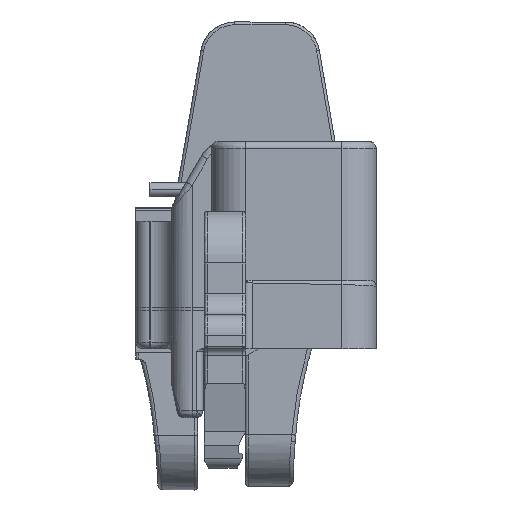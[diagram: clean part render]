
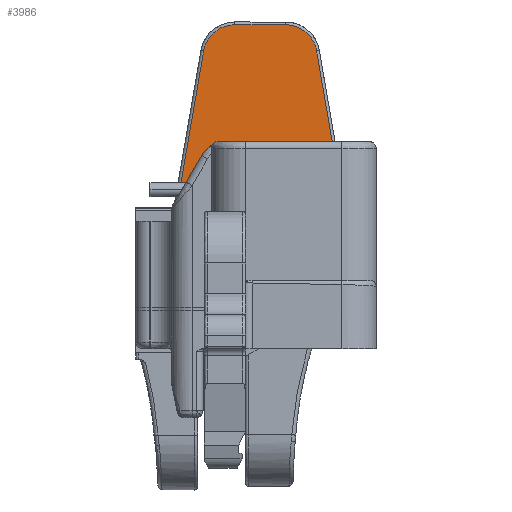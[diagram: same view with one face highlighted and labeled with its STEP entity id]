
A CAD part, front view. The second image highlights one B-rep face of the part: STEP entity #3986.
In plain terms, the highlighted planar face has unit normal (0, -1, 0).
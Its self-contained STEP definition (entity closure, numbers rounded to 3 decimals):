
#904 = CARTESIAN_POINT ( 'NONE',  ( 3.661, 0., 18.891 ) ) ;
#1178 = EDGE_CURVE ( 'NONE', #10306, #18175, #25369, .T. ) ;
#1795 = ORIENTED_EDGE ( 'NONE', *, *, #25819, .F. ) ;
#1921 = VECTOR ( 'NONE', #25499, 1000. ) ;
#2019 =( BOUNDED_CURVE ( )  B_SPLINE_CURVE ( 3, ( #26994, #2427, #13001, #37611 ),
 .UNSPECIFIED., .F., .F. ) 
 B_SPLINE_CURVE_WITH_KNOTS ( ( 4, 4 ),
 ( 0., 1. ),
 .UNSPECIFIED. ) 
 CURVE ( )  GEOMETRIC_REPRESENTATION_ITEM ( )  RATIONAL_B_SPLINE_CURVE ( ( 1., 0.843, 0.843, 1. ) ) 
 REPRESENTATION_ITEM ( '' )  );
#2427 = CARTESIAN_POINT ( 'NONE',  ( -4.362, 0., 20.045 ) ) ;
#2798 = ORIENTED_EDGE ( 'NONE', *, *, #9545, .F. ) ;
#3013 = VERTEX_POINT ( 'NONE', #44262 ) ;
#3229 = FACE_OUTER_BOUND ( 'NONE', #8845, .T. ) ;
#3986 = ADVANCED_FACE ( 'NONE', ( #3229 ), #43709, .F. ) ;
#5933 = ORIENTED_EDGE ( 'NONE', *, *, #31627, .T. ) ;
#6769 = CARTESIAN_POINT ( 'NONE',  ( 1.394, 0., 20.8 ) ) ;
#7125 = CARTESIAN_POINT ( 'NONE',  ( -9.5, 0., 20.8 ) ) ;
#7385 = VECTOR ( 'NONE', #14429, 1000. ) ;
#8845 = EDGE_LOOP ( 'NONE', ( #35146, #12414, #1795, #2798, #5933, #21879 ) ) ;
#9545 = EDGE_CURVE ( 'NONE', #39131, #16816, #11895, .T. ) ;
#10306 = VERTEX_POINT ( 'NONE', #32837 ) ;
#11895 = LINE ( 'NONE', #23523, #38897 ) ;
#12125 = CARTESIAN_POINT ( 'NONE',  ( -9.5, 0., 12.3 ) ) ;
#12414 = ORIENTED_EDGE ( 'NONE', *, *, #1178, .F. ) ;
#13001 = CARTESIAN_POINT ( 'NONE',  ( -3.466, 0., 20.8 ) ) ;
#14429 = DIRECTION ( 'NONE',  ( 1., 0., 0. ) ) ;
#15654 = DIRECTION ( 'NONE',  ( 1., 0., 0. ) ) ;
#15995 = CARTESIAN_POINT ( 'NONE',  ( 3.661, 0., 18.891 ) ) ;
#16076 = AXIS2_PLACEMENT_3D ( 'NONE', #12125, #36747, #15654 ) ;
#16713 = LINE ( 'NONE', #39081, #7385 ) ;
#16816 = VERTEX_POINT ( 'NONE', #32731 ) ;
#17086 = EDGE_CURVE ( 'NONE', #18175, #3013, #21308, .T. ) ;
#18175 = VERTEX_POINT ( 'NONE', #18690 ) ;
#18690 = CARTESIAN_POINT ( 'NONE',  ( 1.394, 0., 20.8 ) ) ;
#20633 = LINE ( 'NONE', #904, #1921 ) ;
#21308 =( BOUNDED_CURVE ( )  B_SPLINE_CURVE ( 3, ( #6769, #44038, #37069, #15995 ),
 .UNSPECIFIED., .F., .F. ) 
 B_SPLINE_CURVE_WITH_KNOTS ( ( 4, 4 ),
 ( 0., 1. ),
 .UNSPECIFIED. ) 
 CURVE ( )  GEOMETRIC_REPRESENTATION_ITEM ( )  RATIONAL_B_SPLINE_CURVE ( ( 1., 0.843, 0.843, 1. ) ) 
 REPRESENTATION_ITEM ( '' )  );
#21879 = ORIENTED_EDGE ( 'NONE', *, *, #38121, .F. ) ;
#23523 = CARTESIAN_POINT ( 'NONE',  ( -6.663, 0., 6.7 ) ) ;
#24132 = VERTEX_POINT ( 'NONE', #31658 ) ;
#25369 = LINE ( 'NONE', #7125, #44147 ) ;
#25499 = DIRECTION ( 'NONE',  ( 0.17, 0., -0.985 ) ) ;
#25819 = EDGE_CURVE ( 'NONE', #16816, #10306, #2019, .T. ) ;
#26994 = CARTESIAN_POINT ( 'NONE',  ( -4.561, 0., 18.891 ) ) ;
#30354 = CARTESIAN_POINT ( 'NONE',  ( -6.663, 0., 6.7 ) ) ;
#31627 = EDGE_CURVE ( 'NONE', #39131, #24132, #16713, .T. ) ;
#31658 = CARTESIAN_POINT ( 'NONE',  ( 5.763, 0., 6.7 ) ) ;
#32731 = CARTESIAN_POINT ( 'NONE',  ( -4.561, 0., 18.891 ) ) ;
#32837 = CARTESIAN_POINT ( 'NONE',  ( -2.294, 0., 20.8 ) ) ;
#34627 = DIRECTION ( 'NONE',  ( 1., 0., 0. ) ) ;
#35146 = ORIENTED_EDGE ( 'NONE', *, *, #17086, .F. ) ;
#36747 = DIRECTION ( 'NONE',  ( 0., 1., 0. ) ) ;
#37069 = CARTESIAN_POINT ( 'NONE',  ( 3.462, 0., 20.045 ) ) ;
#37611 = CARTESIAN_POINT ( 'NONE',  ( -2.294, 0., 20.8 ) ) ;
#38121 = EDGE_CURVE ( 'NONE', #3013, #24132, #20633, .T. ) ;
#38897 = VECTOR ( 'NONE', #44664, 1000. ) ;
#39081 = CARTESIAN_POINT ( 'NONE',  ( -6.818, 0., 6.7 ) ) ;
#39131 = VERTEX_POINT ( 'NONE', #30354 ) ;
#43709 = PLANE ( 'NONE',  #16076 ) ;
#44038 = CARTESIAN_POINT ( 'NONE',  ( 2.566, 0., 20.8 ) ) ;
#44147 = VECTOR ( 'NONE', #34627, 1000. ) ;
#44262 = CARTESIAN_POINT ( 'NONE',  ( 3.661, 0., 18.891 ) ) ;
#44664 = DIRECTION ( 'NONE',  ( 0.17, 0., 0.985 ) ) ;
